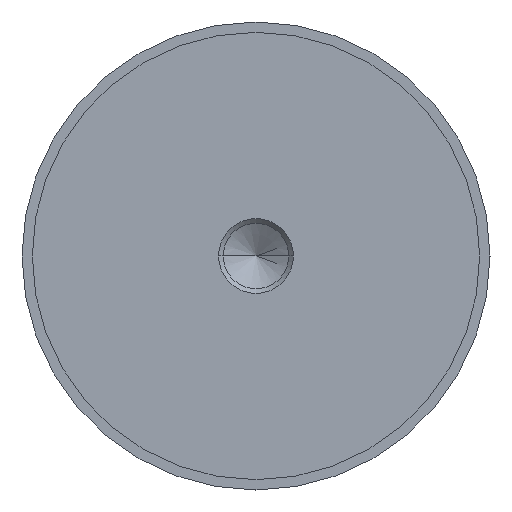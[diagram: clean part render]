
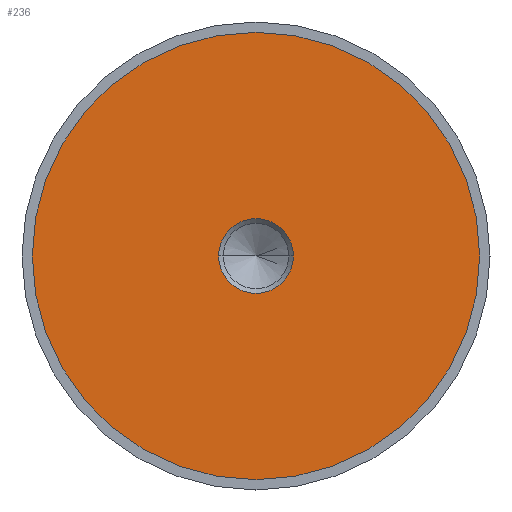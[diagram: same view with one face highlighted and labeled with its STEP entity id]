
A CAD part, left-side view. The second image highlights one B-rep face of the part: STEP entity #236.
In plain terms, the highlighted planar face has unit normal (-1, 0, 0).
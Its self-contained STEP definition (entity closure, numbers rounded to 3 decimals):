
#11 = EDGE_CURVE ( 'NONE', #553, #331, #699, .T. ) ;
#12 = CARTESIAN_POINT ( 'NONE',  ( -27.49, 0., 0. ) ) ;
#19 = PLANE ( 'NONE',  #211 ) ;
#49 = ORIENTED_EDGE ( 'NONE', *, *, #261, .T. ) ;
#51 = EDGE_LOOP ( 'NONE', ( #420, #557 ) ) ;
#90 = AXIS2_PLACEMENT_3D ( 'NONE', #248, #650, #475 ) ;
#100 = AXIS2_PLACEMENT_3D ( 'NONE', #505, #349, #620 ) ;
#112 = DIRECTION ( 'NONE',  ( 1., 0., 0. ) ) ;
#127 = EDGE_CURVE ( 'NONE', #695, #313, #591, .T. ) ;
#176 = DIRECTION ( 'NONE',  ( -1., 0., 0. ) ) ;
#180 = CIRCLE ( 'NONE', #90, 7.99 ) ;
#183 = AXIS2_PLACEMENT_3D ( 'NONE', #281, #176, #297 ) ;
#211 = AXIS2_PLACEMENT_3D ( 'NONE', #652, #532, #244 ) ;
#234 = CARTESIAN_POINT ( 'NONE',  ( -27.49, 0., 47.8 ) ) ;
#236 = ADVANCED_FACE ( 'NONE', ( #307, #536 ), #19, .F. ) ;
#244 = DIRECTION ( 'NONE',  ( 0., 0., -1. ) ) ;
#248 = CARTESIAN_POINT ( 'NONE',  ( -27.49, 0., 0. ) ) ;
#261 = EDGE_CURVE ( 'NONE', #313, #695, #180, .T. ) ;
#281 = CARTESIAN_POINT ( 'NONE',  ( -27.49, 0., 0. ) ) ;
#297 = DIRECTION ( 'NONE',  ( 0., 0., 1. ) ) ;
#307 = FACE_BOUND ( 'NONE', #310, .T. ) ;
#310 = EDGE_LOOP ( 'NONE', ( #490, #49 ) ) ;
#313 = VERTEX_POINT ( 'NONE', #369 ) ;
#331 = VERTEX_POINT ( 'NONE', #659 ) ;
#349 = DIRECTION ( 'NONE',  ( -1., 0., 0. ) ) ;
#357 = AXIS2_PLACEMENT_3D ( 'NONE', #12, #112, #460 ) ;
#369 = CARTESIAN_POINT ( 'NONE',  ( -27.49, 7.99, 0. ) ) ;
#420 = ORIENTED_EDGE ( 'NONE', *, *, #11, .T. ) ;
#460 = DIRECTION ( 'NONE',  ( 0., 0., -1. ) ) ;
#467 = EDGE_CURVE ( 'NONE', #331, #553, #668, .T. ) ;
#475 = DIRECTION ( 'NONE',  ( 0., 0., -1. ) ) ;
#490 = ORIENTED_EDGE ( 'NONE', *, *, #127, .T. ) ;
#505 = CARTESIAN_POINT ( 'NONE',  ( -27.49, 0., 0. ) ) ;
#532 = DIRECTION ( 'NONE',  ( 1., 0., 0. ) ) ;
#536 = FACE_OUTER_BOUND ( 'NONE', #51, .T. ) ;
#553 = VERTEX_POINT ( 'NONE', #234 ) ;
#557 = ORIENTED_EDGE ( 'NONE', *, *, #467, .T. ) ;
#591 = CIRCLE ( 'NONE', #357, 7.99 ) ;
#620 = DIRECTION ( 'NONE',  ( 0., 0., 1. ) ) ;
#650 = DIRECTION ( 'NONE',  ( 1., 0., 0. ) ) ;
#652 = CARTESIAN_POINT ( 'NONE',  ( -27.49, 47.8, 0. ) ) ;
#659 = CARTESIAN_POINT ( 'NONE',  ( -27.49, 0., -47.8 ) ) ;
#668 = CIRCLE ( 'NONE', #183, 47.8 ) ;
#695 = VERTEX_POINT ( 'NONE', #722 ) ;
#699 = CIRCLE ( 'NONE', #100, 47.8 ) ;
#722 = CARTESIAN_POINT ( 'NONE',  ( -27.49, -7.99, 0. ) ) ;
